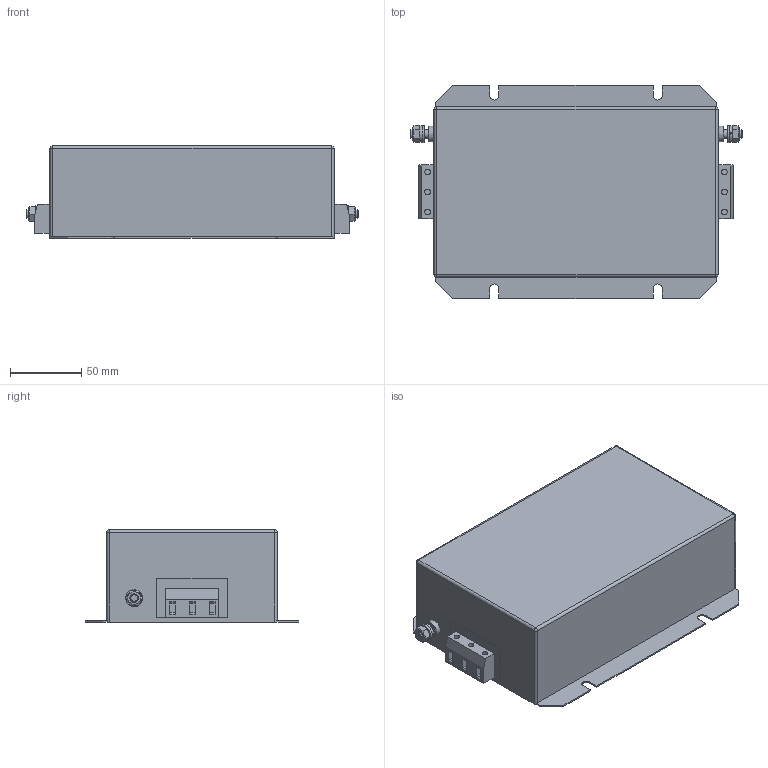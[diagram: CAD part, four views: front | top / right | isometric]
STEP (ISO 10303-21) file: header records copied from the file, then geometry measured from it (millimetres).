
FILE_DESCRIPTION((''),'2;1');
FILE_NAME('P:\Construction\Filter_Marketing\FN\FN351H\FN351H-8-29\FN351H-8-29.stp','2015-03-11T12:12:59',('erika.jenzer'),(''),'Autodesk Inventor 2013','Autodesk Inventor 2013','');
FILE_SCHEMA(('AUTOMOTIVE_DESIGN { 1 0 10303 214 1 1 1 1 }'));
Length unit declared in the file: millimetre
Products named in the file (1): FN351H-8-29
Bounding box: 233.8 x 150 x 65 mm (x, y, z)
Volume: 1583028.5 mm3; surface area: 105198.3 mm2
Topology: 1 solids, 9 shells, 210 faces, 480 edges, 314 vertices
Faces by surface type: plane 162, cylinder 36, cone 8, sphere 4
Full cylindrical faces by diameter (mm): 4 x10, 6 x4, 6.4 x2, 11.05 x2, 12 x2
Entity records: 5811 total; most frequent: CARTESIAN_POINT 1009, DIRECTION 936, ORIENTED_EDGE 888, EDGE_CURVE 444, VECTOR 326, LINE 326, VERTEX_POINT 306, AXIS2_PLACEMENT_3D 305
